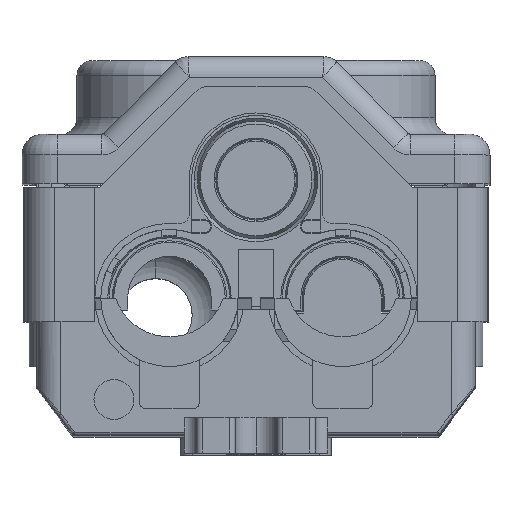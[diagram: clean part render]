
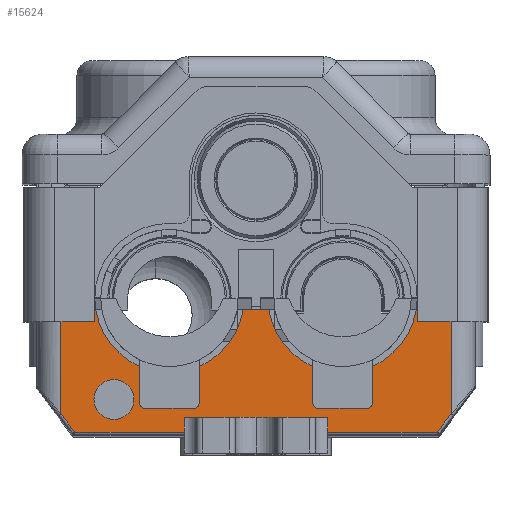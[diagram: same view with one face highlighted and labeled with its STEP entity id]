
A CAD part, top view. The second image highlights one B-rep face of the part: STEP entity #15624.
In plain terms, the highlighted planar face has unit normal (0, 0, 1).
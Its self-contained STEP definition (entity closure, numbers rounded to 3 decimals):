
#642 = CIRCLE ( 'NONE', #37241, 3.35 ) ;
#1318 = CARTESIAN_POINT ( 'NONE',  ( 12., 0.5, 54.35 ) ) ;
#1605 = ORIENTED_EDGE ( 'NONE', *, *, #12529, .F. ) ;
#2375 = VECTOR ( 'NONE', #18923, 1000. ) ;
#2611 = CARTESIAN_POINT ( 'NONE',  ( 0., 0., 54.35 ) ) ;
#2809 = CARTESIAN_POINT ( 'NONE',  ( -38.2, 23., 54.35 ) ) ;
#2925 = LINE ( 'NONE', #12858, #41387 ) ;
#3262 = LINE ( 'NONE', #31907, #30723 ) ;
#3842 = CARTESIAN_POINT ( 'NONE',  ( -23.8, 6., 54.35 ) ) ;
#4178 = ORIENTED_EDGE ( 'NONE', *, *, #44046, .F. ) ;
#5157 = CARTESIAN_POINT ( 'NONE',  ( -30.351, 0.5, 54.35 ) ) ;
#5312 = DIRECTION ( 'NONE',  ( 0., -1., 0. ) ) ;
#5404 = CARTESIAN_POINT ( 'NONE',  ( 0., 0.5, 54.35 ) ) ;
#5644 = DIRECTION ( 'NONE',  ( 1., 0., 0. ) ) ;
#6432 = LINE ( 'NONE', #37210, #35025 ) ;
#6544 = DIRECTION ( 'NONE',  ( 1., 0., 0. ) ) ;
#7180 = CARTESIAN_POINT ( 'NONE',  ( -20.45, 6., 54.35 ) ) ;
#7272 = CARTESIAN_POINT ( 'NONE',  ( -14.5, 23., 54.35 ) ) ;
#7596 = CARTESIAN_POINT ( 'NONE',  ( -12., 0.5, 54.35 ) ) ;
#8340 = CARTESIAN_POINT ( 'NONE',  ( -23.8, 6., 54.35 ) ) ;
#8626 = ORIENTED_EDGE ( 'NONE', *, *, #21373, .F. ) ;
#8678 = DIRECTION ( 'NONE',  ( 1., 0., 0. ) ) ;
#8770 = VERTEX_POINT ( 'NONE', #28097 ) ;
#8912 = VECTOR ( 'NONE', #35212, 1000. ) ;
#9268 = LINE ( 'NONE', #11607, #26832 ) ;
#9649 = ORIENTED_EDGE ( 'NONE', *, *, #20455, .T. ) ;
#9934 = FACE_BOUND ( 'NONE', #18458, .T. ) ;
#10263 = DIRECTION ( 'NONE',  ( 1., 0., 0. ) ) ;
#10384 = VECTOR ( 'NONE', #46516, 1000. ) ;
#11091 = DIRECTION ( 'NONE',  ( 1., 0., 0. ) ) ;
#11166 = VECTOR ( 'NONE', #28431, 1000. ) ;
#11392 = ORIENTED_EDGE ( 'NONE', *, *, #46366, .T. ) ;
#11607 = CARTESIAN_POINT ( 'NONE',  ( -32.7, 0., 54.35 ) ) ;
#12163 = DIRECTION ( 'NONE',  ( 1., 0., 0. ) ) ;
#12529 = EDGE_CURVE ( 'NONE', #43503, #16953, #642, .T. ) ;
#12744 = EDGE_CURVE ( 'NONE', #21450, #31771, #41987, .T. ) ;
#12858 = CARTESIAN_POINT ( 'NONE',  ( -12., 3., 54.35 ) ) ;
#13676 = LINE ( 'NONE', #38487, #33473 ) ;
#13763 = CIRCLE ( 'NONE', #35034, 12.5 ) ;
#13776 = ORIENTED_EDGE ( 'NONE', *, *, #36521, .T. ) ;
#14729 = ORIENTED_EDGE ( 'NONE', *, *, #41619, .F. ) ;
#15260 = EDGE_CURVE ( 'NONE', #45104, #41403, #2925, .T. ) ;
#15563 = CARTESIAN_POINT ( 'NONE',  ( 19.118, -14.406, 54.35 ) ) ;
#15624 = ADVANCED_FACE ( 'NONE', ( #19895, #9934 ), #39910, .T. ) ;
#16871 = CARTESIAN_POINT ( 'NONE',  ( -38.2, 23., 54.35 ) ) ;
#16953 = VERTEX_POINT ( 'NONE', #7180 ) ;
#17112 = ORIENTED_EDGE ( 'NONE', *, *, #33958, .T. ) ;
#17582 = DIRECTION ( 'NONE',  ( 0., 0., 1. ) ) ;
#17687 = DIRECTION ( 'NONE',  ( 0., 0., 1. ) ) ;
#18298 = VECTOR ( 'NONE', #41520, 1000. ) ;
#18458 = EDGE_LOOP ( 'NONE', ( #8626, #1605 ) ) ;
#18587 = VERTEX_POINT ( 'NONE', #29447 ) ;
#18898 = LINE ( 'NONE', #5404, #8912 ) ;
#18923 = DIRECTION ( 'NONE',  ( 1., 0., 0. ) ) ;
#19886 = VERTEX_POINT ( 'NONE', #43755 ) ;
#19895 = FACE_OUTER_BOUND ( 'NONE', #30630, .T. ) ;
#20321 = LINE ( 'NONE', #16871, #10384 ) ;
#20455 = EDGE_CURVE ( 'NONE', #25189, #41403, #13676, .T. ) ;
#20523 = CARTESIAN_POINT ( 'NONE',  ( 32.7, 23., 54.35 ) ) ;
#21121 = ORIENTED_EDGE ( 'NONE', *, *, #23519, .F. ) ;
#21373 = EDGE_CURVE ( 'NONE', #16953, #43503, #32563, .T. ) ;
#21450 = VERTEX_POINT ( 'NONE', #33068 ) ;
#21539 = VECTOR ( 'NONE', #23132, 1000. ) ;
#21779 = VERTEX_POINT ( 'NONE', #35279 ) ;
#22116 = LINE ( 'NONE', #2809, #29680 ) ;
#22812 = CARTESIAN_POINT ( 'NONE',  ( 0., 3., 54.35 ) ) ;
#23132 = DIRECTION ( 'NONE',  ( 0., 1., 0. ) ) ;
#23519 = EDGE_CURVE ( 'NONE', #8770, #19886, #13763, .T. ) ;
#25189 = VERTEX_POINT ( 'NONE', #5157 ) ;
#26726 = CARTESIAN_POINT ( 'NONE',  ( 32.7, 0., 54.35 ) ) ;
#26832 = VECTOR ( 'NONE', #44903, 1000. ) ;
#27887 = CARTESIAN_POINT ( 'NONE',  ( 2.161, 21., 54.35 ) ) ;
#28097 = CARTESIAN_POINT ( 'NONE',  ( -27., 23., 54.35 ) ) ;
#28265 = VERTEX_POINT ( 'NONE', #33499 ) ;
#28431 = DIRECTION ( 'NONE',  ( 0., -1., 0. ) ) ;
#29351 = CIRCLE ( 'NONE', #41170, 12.5 ) ;
#29447 = CARTESIAN_POINT ( 'NONE',  ( -32.7, 23., 54.35 ) ) ;
#29468 = ORIENTED_EDGE ( 'NONE', *, *, #33536, .T. ) ;
#29680 = VECTOR ( 'NONE', #6544, 1000. ) ;
#30630 = EDGE_LOOP ( 'NONE', ( #29468, #33523, #9649, #44559, #13776, #37593, #11392, #42686, #17112, #37411, #4178, #14729, #21121, #33153 ) ) ;
#30723 = VECTOR ( 'NONE', #5644, 1000. ) ;
#30863 = VERTEX_POINT ( 'NONE', #20523 ) ;
#31042 = LINE ( 'NONE', #22812, #2375 ) ;
#31147 = EDGE_CURVE ( 'NONE', #35046, #25189, #6432, .T. ) ;
#31454 = LINE ( 'NONE', #26726, #21539 ) ;
#31494 = CARTESIAN_POINT ( 'NONE',  ( -32.7, 3.618, 54.35 ) ) ;
#31771 = VERTEX_POINT ( 'NONE', #1318 ) ;
#31907 = CARTESIAN_POINT ( 'NONE',  ( -2.161, 21., 54.35 ) ) ;
#32112 = CARTESIAN_POINT ( 'NONE',  ( 30.351, 0.5, 54.35 ) ) ;
#32157 = CARTESIAN_POINT ( 'NONE',  ( 12., 3., 54.35 ) ) ;
#32563 = CIRCLE ( 'NONE', #33135, 3.35 ) ;
#32577 = DIRECTION ( 'NONE',  ( 0., 0., 1. ) ) ;
#33068 = CARTESIAN_POINT ( 'NONE',  ( 12., 3., 54.35 ) ) ;
#33085 = CARTESIAN_POINT ( 'NONE',  ( -12., 3., 54.35 ) ) ;
#33135 = AXIS2_PLACEMENT_3D ( 'NONE', #3842, #32577, #10263 ) ;
#33153 = ORIENTED_EDGE ( 'NONE', *, *, #34576, .F. ) ;
#33393 = DIRECTION ( 'NONE',  ( 0., 0., 1. ) ) ;
#33473 = VECTOR ( 'NONE', #8678, 1000. ) ;
#33499 = CARTESIAN_POINT ( 'NONE',  ( 32.7, 3.618, 54.35 ) ) ;
#33523 = ORIENTED_EDGE ( 'NONE', *, *, #31147, .T. ) ;
#33536 = EDGE_CURVE ( 'NONE', #18587, #35046, #9268, .T. ) ;
#33958 = EDGE_CURVE ( 'NONE', #28265, #30863, #31454, .T. ) ;
#34297 = EDGE_CURVE ( 'NONE', #21779, #30863, #22116, .T. ) ;
#34427 = DIRECTION ( 'NONE',  ( 0., 0., 1. ) ) ;
#34576 = EDGE_CURVE ( 'NONE', #18587, #8770, #20321, .T. ) ;
#35025 = VECTOR ( 'NONE', #40940, 1000. ) ;
#35034 = AXIS2_PLACEMENT_3D ( 'NONE', #7272, #33393, #11091 ) ;
#35046 = VERTEX_POINT ( 'NONE', #31494 ) ;
#35212 = DIRECTION ( 'NONE',  ( 1., 0., 0. ) ) ;
#35279 = CARTESIAN_POINT ( 'NONE',  ( 27., 23., 54.35 ) ) ;
#36521 = EDGE_CURVE ( 'NONE', #45104, #21450, #31042, .T. ) ;
#36858 = LINE ( 'NONE', #15563, #18298 ) ;
#37210 = CARTESIAN_POINT ( 'NONE',  ( -19.118, -14.406, 54.35 ) ) ;
#37241 = AXIS2_PLACEMENT_3D ( 'NONE', #8340, #34427, #12163 ) ;
#37411 = ORIENTED_EDGE ( 'NONE', *, *, #34297, .F. ) ;
#37593 = ORIENTED_EDGE ( 'NONE', *, *, #12744, .T. ) ;
#38487 = CARTESIAN_POINT ( 'NONE',  ( 0., 0.5, 54.35 ) ) ;
#39809 = CARTESIAN_POINT ( 'NONE',  ( 14.5, 23., 54.35 ) ) ;
#39910 = PLANE ( 'NONE',  #41357 ) ;
#40940 = DIRECTION ( 'NONE',  ( 0.602, -0.799, 0. ) ) ;
#41170 = AXIS2_PLACEMENT_3D ( 'NONE', #39809, #17582, #43526 ) ;
#41357 = AXIS2_PLACEMENT_3D ( 'NONE', #2611, #17687, #43623 ) ;
#41387 = VECTOR ( 'NONE', #5312, 1000. ) ;
#41403 = VERTEX_POINT ( 'NONE', #7596 ) ;
#41520 = DIRECTION ( 'NONE',  ( 0.602, 0.799, 0. ) ) ;
#41619 = EDGE_CURVE ( 'NONE', #19886, #42656, #3262, .T. ) ;
#41987 = LINE ( 'NONE', #32157, #11166 ) ;
#42656 = VERTEX_POINT ( 'NONE', #27887 ) ;
#42686 = ORIENTED_EDGE ( 'NONE', *, *, #46700, .T. ) ;
#43503 = VERTEX_POINT ( 'NONE', #45581 ) ;
#43526 = DIRECTION ( 'NONE',  ( 1., 0., 0. ) ) ;
#43623 = DIRECTION ( 'NONE',  ( 1., 0., 0. ) ) ;
#43755 = CARTESIAN_POINT ( 'NONE',  ( -2.161, 21., 54.35 ) ) ;
#44046 = EDGE_CURVE ( 'NONE', #42656, #21779, #29351, .T. ) ;
#44559 = ORIENTED_EDGE ( 'NONE', *, *, #15260, .F. ) ;
#44903 = DIRECTION ( 'NONE',  ( 0., -1., 0. ) ) ;
#45104 = VERTEX_POINT ( 'NONE', #33085 ) ;
#45581 = CARTESIAN_POINT ( 'NONE',  ( -27.15, 6., 54.35 ) ) ;
#46366 = EDGE_CURVE ( 'NONE', #31771, #46965, #18898, .T. ) ;
#46516 = DIRECTION ( 'NONE',  ( 1., 0., 0. ) ) ;
#46700 = EDGE_CURVE ( 'NONE', #46965, #28265, #36858, .T. ) ;
#46965 = VERTEX_POINT ( 'NONE', #32112 ) ;
